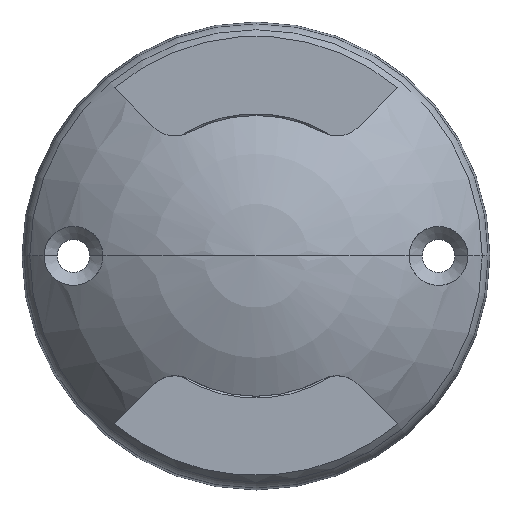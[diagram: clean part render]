
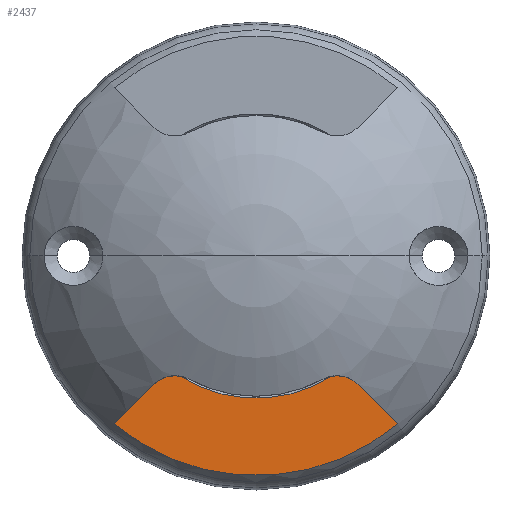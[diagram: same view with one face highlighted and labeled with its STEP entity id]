
A CAD part, top view. The second image highlights one B-rep face of the part: STEP entity #2437.
In plain terms, the highlighted planar face has unit normal (0, 0, 1).
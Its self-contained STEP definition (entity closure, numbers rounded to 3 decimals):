
#997=CARTESIAN_POINT('',(0.,0.,4.));
#998=DIRECTION('',(0.,0.,-1.));
#999=DIRECTION('',(0.533,-0.846,0.));
#1000=AXIS2_PLACEMENT_3D('',#997,#998,#999);
#1002=CARTESIAN_POINT('',(8.656,-16.01,4.));
#1003=DIRECTION('',(0.,0.,1.));
#1004=DIRECTION('',(0.707,0.707,0.));
#1005=AXIS2_PLACEMENT_3D('',#1002,#1003,#1004);
#1007=DIRECTION('',(-0.707,0.707,0.));
#1008=VECTOR('',#1007,5.943);
#1009=CARTESIAN_POINT('',(15.121,-17.95,4.));
#1010=LINE('',#1009,#1008);
#1011=CARTESIAN_POINT('',(0.,0.,4.));
#1012=DIRECTION('',(0.,0.,1.));
#1013=DIRECTION('',(-0.644,-0.765,0.));
#1014=AXIS2_PLACEMENT_3D('',#1011,#1012,#1013);
#1016=DIRECTION('',(-0.707,-0.707,0.));
#1017=VECTOR('',#1016,5.943);
#1018=CARTESIAN_POINT('',(-10.919,-13.747,4.));
#1019=LINE('',#1018,#1017);
#1020=CARTESIAN_POINT('',(-8.656,-16.01,4.));
#1021=DIRECTION('',(0.,0.,1.));
#1022=DIRECTION('',(0.171,0.985,0.));
#1023=AXIS2_PLACEMENT_3D('',#1020,#1021,#1022);
#1112=CARTESIAN_POINT('',(10.919,-13.747,4.));
#1113=CARTESIAN_POINT('',(8.108,-12.857,4.));
#1114=VERTEX_POINT('',#1112);
#1115=VERTEX_POINT('',#1113);
#1118=CARTESIAN_POINT('',(15.121,-17.95,4.));
#1119=VERTEX_POINT('',#1118);
#1120=CARTESIAN_POINT('',(-8.108,-12.857,4.));
#1121=CARTESIAN_POINT('',(-10.919,-13.747,4.));
#1122=VERTEX_POINT('',#1120);
#1123=VERTEX_POINT('',#1121);
#1124=CARTESIAN_POINT('',(-15.121,-17.95,4.));
#1125=VERTEX_POINT('',#1124);
#2423=CARTESIAN_POINT('',(0.,0.,4.));
#2424=DIRECTION('',(0.,0.,1.));
#2425=DIRECTION('',(1.,0.,0.));
#2426=AXIS2_PLACEMENT_3D('',#2423,#2424,#2425);
#2427=PLANE('',#2426);
#2428=ORIENTED_EDGE('',*,*,#1754,.F.);
#2429=ORIENTED_EDGE('',*,*,#2391,.F.);
#2430=ORIENTED_EDGE('',*,*,#2418,.F.);
#2431=ORIENTED_EDGE('',*,*,#1679,.F.);
#2433=ORIENTED_EDGE('',*,*,#2432,.F.);
#2434=ORIENTED_EDGE('',*,*,#1699,.F.);
#2435=EDGE_LOOP('',(#2428,#2429,#2430,#2431,#2433,#2434));
#2436=FACE_OUTER_BOUND('',#2435,.F.);
#2437=ADVANCED_FACE('',(#2436),#2427,.T.);
#1001=CIRCLE('',#1000,15.2);
#1006=CIRCLE('',#1005,3.2);
#1015=CIRCLE('',#1014,23.47);
#1024=CIRCLE('',#1023,3.2);
#1679=EDGE_CURVE('',#1125,#1119,#1015,.T.);
#1699=EDGE_CURVE('',#1122,#1123,#1024,.T.);
#1754=EDGE_CURVE('',#1115,#1122,#1001,.T.);
#2391=EDGE_CURVE('',#1114,#1115,#1006,.T.);
#2418=EDGE_CURVE('',#1119,#1114,#1010,.T.);
#2432=EDGE_CURVE('',#1123,#1125,#1019,.T.);
